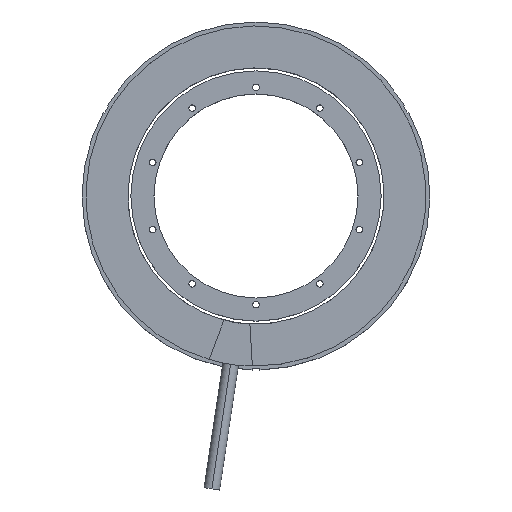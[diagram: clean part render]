
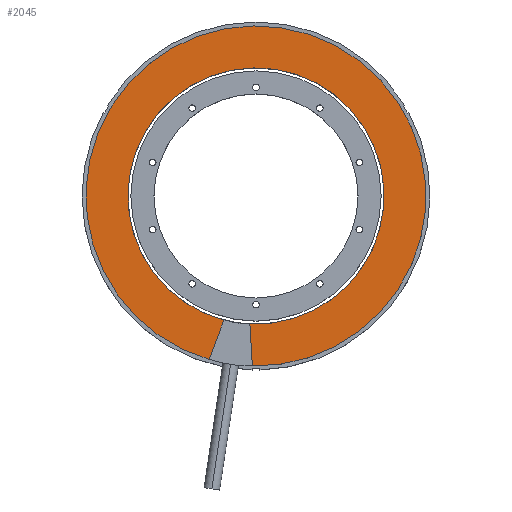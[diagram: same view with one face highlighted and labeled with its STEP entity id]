
A CAD part, top view. The second image highlights one B-rep face of the part: STEP entity #2045.
In plain terms, the highlighted planar face has unit normal (0, 0, 1).
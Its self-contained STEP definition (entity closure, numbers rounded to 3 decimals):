
#6 = CARTESIAN_POINT ( 'NONE',  ( 11.713, 7.86, 97.407 ) ) ;
#47 = CARTESIAN_POINT ( 'NONE',  ( 1.826, 9.359, 97.407 ) ) ;
#50 = DIRECTION ( 'NONE',  ( -0.352, -0.936, 0. ) ) ;
#76 = EDGE_CURVE ( 'NONE', #93, #738, #4203, .T. ) ;
#93 = VERTEX_POINT ( 'NONE', #6 ) ;
#113 = VECTOR ( 'NONE', #1729, 1000. ) ;
#479 = LINE ( 'NONE', #4760, #1951 ) ;
#488 = DIRECTION ( 'NONE',  ( -0.15, -0.989, 0. ) ) ;
#551 = CARTESIAN_POINT ( 'NONE',  ( -3.852, -5.727, 97.407 ) ) ;
#579 = ORIENTED_EDGE ( 'NONE', *, *, #2337, .T. ) ;
#738 = VERTEX_POINT ( 'NONE', #1626 ) ;
#839 = CARTESIAN_POINT ( 'NONE',  ( 14.072, 56.753, 97.407 ) ) ;
#1004 = CARTESIAN_POINT ( 'NONE',  ( 14.072, 56.753, 97.407 ) ) ;
#1008 = EDGE_CURVE ( 'NONE', #4039, #93, #4417, .T. ) ;
#1056 = DIRECTION ( 'NONE',  ( -0.15, -0.989, 0. ) ) ;
#1100 = EDGE_CURVE ( 'NONE', #4039, #2664, #1526, .T. ) ;
#1221 = DIRECTION ( 'NONE',  ( 0., 0., 1. ) ) ;
#1230 = ORIENTED_EDGE ( 'NONE', *, *, #4394, .F. ) ;
#1318 = CIRCLE ( 'NONE', #4169, 48.95 ) ;
#1423 = ORIENTED_EDGE ( 'NONE', *, *, #4388, .F. ) ;
#1478 = CARTESIAN_POINT ( 'NONE',  ( 14.072, 56.753, 97.407 ) ) ;
#1526 = CIRCLE ( 'NONE', #4468, 65. ) ;
#1594 = DIRECTION ( 'NONE',  ( -0.15, -0.989, 0. ) ) ;
#1626 = CARTESIAN_POINT ( 'NONE',  ( 21.413, 105.149, 97.407 ) ) ;
#1729 = DIRECTION ( 'NONE',  ( -0.059, 0.998, 0. ) ) ;
#1951 = VECTOR ( 'NONE', #50, 1000. ) ;
#1989 = AXIS2_PLACEMENT_3D ( 'NONE', #839, #2341, #4277 ) ;
#2045 = ADVANCED_FACE ( 'NONE', ( #4309 ), #4724, .T. ) ;
#2110 = CARTESIAN_POINT ( 'NONE',  ( 11.713, 7.86, 97.407 ) ) ;
#2327 = AXIS2_PLACEMENT_3D ( 'NONE', #2421, #3968, #488 ) ;
#2337 = EDGE_CURVE ( 'NONE', #2664, #2679, #3148, .T. ) ;
#2341 = DIRECTION ( 'NONE',  ( 0., 0., 1. ) ) ;
#2401 = ORIENTED_EDGE ( 'NONE', *, *, #1008, .F. ) ;
#2421 = CARTESIAN_POINT ( 'NONE',  ( 14.072, 56.753, 97.407 ) ) ;
#2564 = VERTEX_POINT ( 'NONE', #47 ) ;
#2664 = VERTEX_POINT ( 'NONE', #4065 ) ;
#2679 = VERTEX_POINT ( 'NONE', #551 ) ;
#2682 = CARTESIAN_POINT ( 'NONE',  ( 12.662, -8.232, 97.407 ) ) ;
#2863 = ORIENTED_EDGE ( 'NONE', *, *, #76, .F. ) ;
#3148 = CIRCLE ( 'NONE', #5032, 65. ) ;
#3196 = ORIENTED_EDGE ( 'NONE', *, *, #1100, .T. ) ;
#3209 = EDGE_LOOP ( 'NONE', ( #2401, #3196, #579, #1230, #1423, #2863 ) ) ;
#3218 = CARTESIAN_POINT ( 'NONE',  ( 14.072, 56.753, 97.407 ) ) ;
#3332 = DIRECTION ( 'NONE',  ( 0., 0., 1. ) ) ;
#3788 = DIRECTION ( 'NONE',  ( 0., 0., 1. ) ) ;
#3968 = DIRECTION ( 'NONE',  ( 0., 0., 1. ) ) ;
#4039 = VERTEX_POINT ( 'NONE', #2682 ) ;
#4065 = CARTESIAN_POINT ( 'NONE',  ( 23.82, 121.018, 97.407 ) ) ;
#4078 = DIRECTION ( 'NONE',  ( -0.15, -0.989, 0. ) ) ;
#4169 = AXIS2_PLACEMENT_3D ( 'NONE', #3218, #1221, #1594 ) ;
#4203 = CIRCLE ( 'NONE', #1989, 48.95 ) ;
#4277 = DIRECTION ( 'NONE',  ( -0.15, -0.989, 0. ) ) ;
#4309 = FACE_OUTER_BOUND ( 'NONE', #3209, .T. ) ;
#4388 = EDGE_CURVE ( 'NONE', #738, #2564, #1318, .T. ) ;
#4394 = EDGE_CURVE ( 'NONE', #2564, #2679, #479, .T. ) ;
#4417 = LINE ( 'NONE', #2110, #113 ) ;
#4468 = AXIS2_PLACEMENT_3D ( 'NONE', #1004, #3332, #4078 ) ;
#4724 = PLANE ( 'NONE',  #2327 ) ;
#4760 = CARTESIAN_POINT ( 'NONE',  ( 1.826, 9.359, 97.407 ) ) ;
#5032 = AXIS2_PLACEMENT_3D ( 'NONE', #1478, #3788, #1056 ) ;
